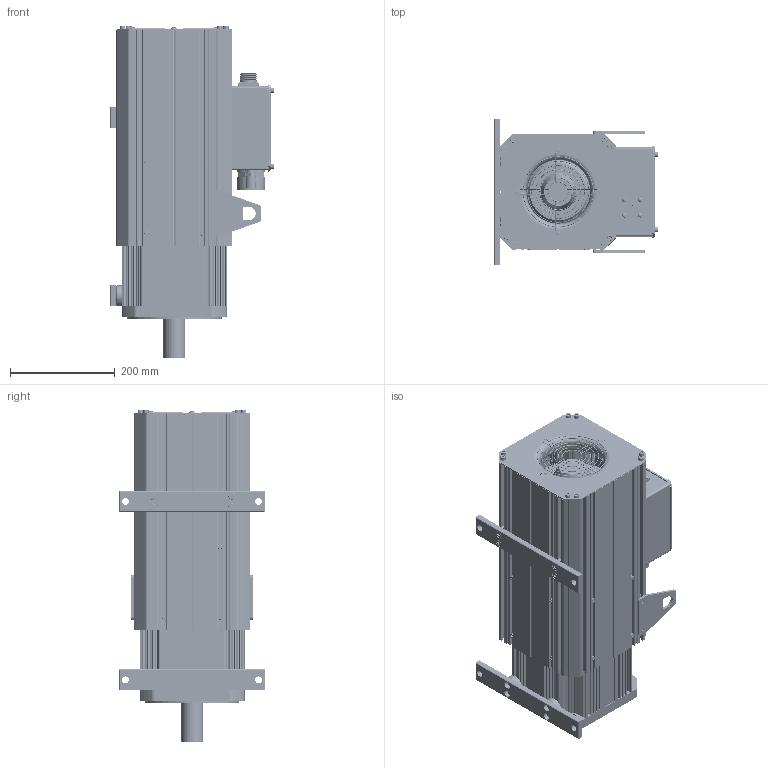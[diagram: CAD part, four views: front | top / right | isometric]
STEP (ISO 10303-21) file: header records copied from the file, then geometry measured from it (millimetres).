
FILE_DESCRIPTION((''),'2;1');
FILE_NAME('K111F15C18P_18KW_ASM','2023-05-23T14:07:41',('admin'),(''),'CREO PARAMETRIC BY PTC INC, 2019080','CREO PARAMETRIC BY PTC INC, 2019080','');
FILE_SCHEMA(('CONFIG_CONTROL_DESIGN'));
Products named in the file (45): QDG_10600-00001; ZZ_12400-04005_18KW; ZC_30400-00001; ZC_30400-01002; ZCZDQ_11200-00001; ZZZJ_80500-04005_18KW_ASM; O-RING_50000-01002; JK_K111_10200-39040; DZZJ_80200-00083_15KW_ASM; FDB_K111_12900-66067; DEGDT_11500-02003; DE_11300-00001; O-RING_50000-02003; YXHQ_20300-00001; O-RING_50000-03004; JXHT_41000-09010; JXHG_41000-00001; JXHGDK_11600-04005; M6X10; XJD_50800-11012; AD13_1; AD42P5_3; MFD_YD28-15P; HKXZ_YD28-15P_40100-00001; PDLD_4X12; JXHZJ_81100-00002_ASM; M5X25; HDG_21200-00001; M8X30; HGB_21600-00001; M4X10; FJ_40000-03004; M4X12; FJFHB_11100-02003; FHW_30500-00001; PDQ_4; MD_4; FJFHBZZ_ASM; QZCJ_10400-15016; DK_12800-32033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
Assembly tree (114 placements, depth 3):
  K111F15C18P_18KW_ASM
    QDG_10600-00001
    ZZZJ_80500-04005_18KW_ASM
      ZZ_12400-04005_18KW
      ZC_30400-00001
      ZC_30400-01002
      ZCZDQ_11200-00001
    O-RING_50000-01002
    DZZJ_80200-00083_15KW_ASM
      JK_K111_10200-39040
    FDB_K111_12900-66067
    DEGDT_11500-02003  x2
    DE_11300-00001  x2
    O-RING_50000-02003
    YXHQ_20300-00001
    O-RING_50000-03004
    JXHZJ_81100-00002_ASM
      JXHT_41000-09010
      JXHG_41000-00001
      JXHGDK_11600-04005  x4
      M6X10  x8
      XJD_50800-11012
      AD13_1
      AD42P5_3
      MFD_YD28-15P
      HKXZ_YD28-15P_40100-00001
      PDLD_4X12  x4
    M5X25  x16
    HDG_21200-00001
    M8X30  x16
    HGB_21600-00001
    M4X10  x4
    FJ_40000-03004
    M4X12  x4
    FJFHBZZ_ASM
      FJFHB_11100-02003
      FHW_30500-00001
      PDQ_4  x4
      MD_4  x4
    M6X10  x8
    ZCJZJ_22300-00007_15KW_ASM
      QZCJ_10400-15016
      DK_12800-32033  x2
      HZCJ_10400-16017
      GDK_11600-09010  x2
      M8X16  x4
Bounding box: 312.35 x 278 x 633 mm (x, y, z)
Volume: 8996360.7 mm3; surface area: 3217871.3 mm2
Topology: 123 solids, 127 shells, 6025 faces, 15826 edges, 10239 vertices
Faces by surface type: plane 2899, cylinder 2331, cone 350, torus 267, bspline 160, sphere 18
Entity records: 164417 total; most frequent: CARTESIAN_POINT 39867, DIRECTION 26411, ORIENTED_EDGE 25900, EDGE_CURVE 12958, AXIS2_PLACEMENT_3D 9354, VERTEX_POINT 8472, VECTOR 7703, LINE 7703
